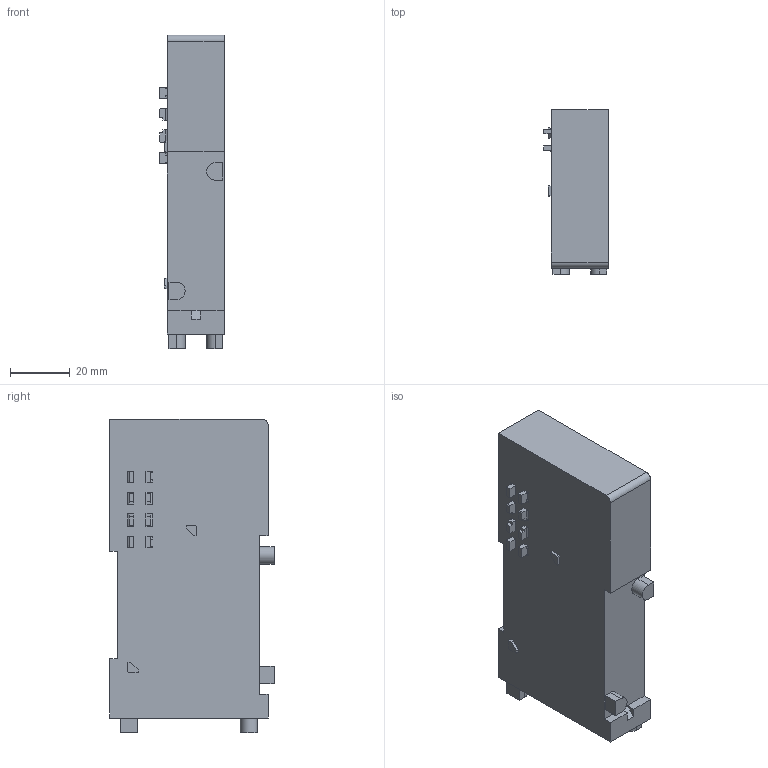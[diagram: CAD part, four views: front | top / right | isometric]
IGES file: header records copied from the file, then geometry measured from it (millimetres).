
Start section: ------------------------------------------------------------------------
Global section: file name: D:\ICADMX\tmp\trans3d_spg\CVICAD02.4564.F15ZX-TK_16560.igs; native system: spGate; preprocessor: ver12.6.6; author: Unknown; organization: Unknown; date: 210712.184737; units: millimetre
Bounding box: 21.6 x 55 x 105 mm (x, y, z)
Volume: 96432.7 mm3; surface area: 17105.2 mm2
Topology: 1 solids, 1 shells, 198 faces, 511 edges, 340 vertices
Faces by surface type: bspline 198
